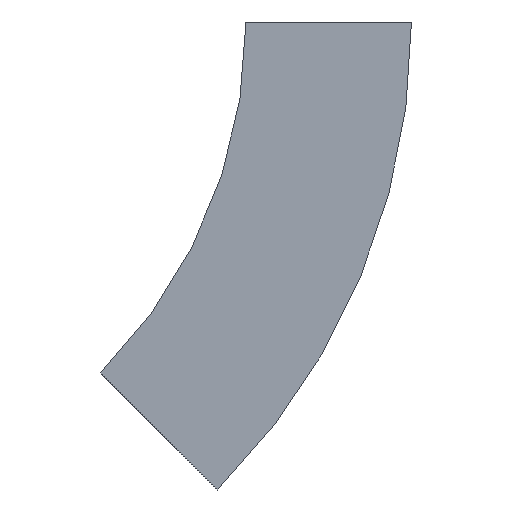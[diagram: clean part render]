
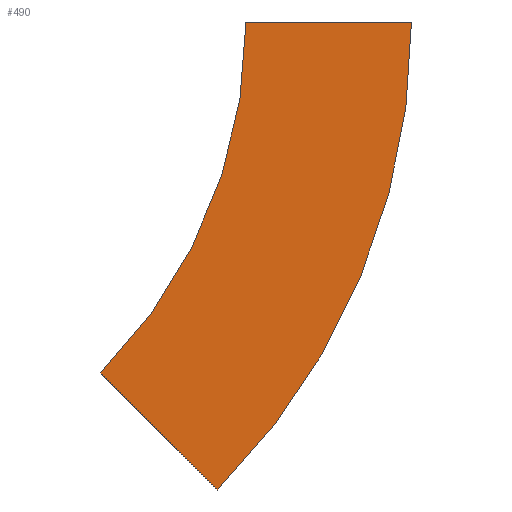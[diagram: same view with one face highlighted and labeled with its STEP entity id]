
A CAD part, left-side view. The second image highlights one B-rep face of the part: STEP entity #490.
In plain terms, the highlighted planar face has unit normal (-1, 0, 0) as drawn and (1, 0, 0) by its records, which use the part's own axes.
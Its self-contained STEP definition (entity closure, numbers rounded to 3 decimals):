
#9 = ORIENTED_EDGE ( 'NONE', *, *, #560, .F. ) ;
#15 = VERTEX_POINT ( 'NONE', #146 ) ;
#17 = CARTESIAN_POINT ( 'NONE',  ( 0., -100., 0. ) ) ;
#19 = AXIS2_PLACEMENT_3D ( 'NONE', #21, #200, #54 ) ;
#20 = CARTESIAN_POINT ( 'NONE',  ( 0., 87.868, -212.132 ) ) ;
#21 = CARTESIAN_POINT ( 'NONE',  ( 0., 300., 0. ) ) ;
#38 = VERTEX_POINT ( 'NONE', #541 ) ;
#42 = EDGE_LOOP ( 'NONE', ( #9, #353, #235, #124 ) ) ;
#54 = DIRECTION ( 'NONE',  ( 0., -1., 0. ) ) ;
#74 = DIRECTION ( 'NONE',  ( 0., 0.707, 0.707 ) ) ;
#83 = VERTEX_POINT ( 'NONE', #86 ) ;
#86 = CARTESIAN_POINT ( 'NONE',  ( 0., 17.157, -282.843 ) ) ;
#95 = PLANE ( 'NONE',  #106 ) ;
#106 = AXIS2_PLACEMENT_3D ( 'NONE', #17, #500, #460 ) ;
#124 = ORIENTED_EDGE ( 'NONE', *, *, #395, .T. ) ;
#146 = CARTESIAN_POINT ( 'NONE',  ( 0., -100., 0. ) ) ;
#186 = CARTESIAN_POINT ( 'NONE',  ( 0., -100., 0. ) ) ;
#200 = DIRECTION ( 'NONE',  ( 1., 0., 0. ) ) ;
#214 = DIRECTION ( 'NONE',  ( 1., 0., 0. ) ) ;
#219 = AXIS2_PLACEMENT_3D ( 'NONE', #316, #214, #270 ) ;
#229 = LINE ( 'NONE', #186, #366 ) ;
#235 = ORIENTED_EDGE ( 'NONE', *, *, #449, .T. ) ;
#270 = DIRECTION ( 'NONE',  ( 0., -1., 0. ) ) ;
#313 = CARTESIAN_POINT ( 'NONE',  ( 0., 17.157, -282.843 ) ) ;
#316 = CARTESIAN_POINT ( 'NONE',  ( 0., 300., 0. ) ) ;
#338 = LINE ( 'NONE', #313, #439 ) ;
#353 = ORIENTED_EDGE ( 'NONE', *, *, #462, .F. ) ;
#366 = VECTOR ( 'NONE', #542, 1000. ) ;
#393 = CIRCLE ( 'NONE', #219, 400. ) ;
#395 = EDGE_CURVE ( 'NONE', #83, #514, #338, .T. ) ;
#439 = VECTOR ( 'NONE', #74, 1000. ) ;
#449 = EDGE_CURVE ( 'NONE', #15, #83, #393, .T. ) ;
#460 = DIRECTION ( 'NONE',  ( 0., 0., 1. ) ) ;
#462 = EDGE_CURVE ( 'NONE', #15, #38, #229, .T. ) ;
#490 = ADVANCED_FACE ( 'NONE', ( #493 ), #95, .F. ) ;
#493 = FACE_OUTER_BOUND ( 'NONE', #42, .T. ) ;
#500 = DIRECTION ( 'NONE',  ( -1., 0., 0. ) ) ;
#514 = VERTEX_POINT ( 'NONE', #20 ) ;
#536 = CIRCLE ( 'NONE', #19, 300. ) ;
#541 = CARTESIAN_POINT ( 'NONE',  ( 0., 0., 0. ) ) ;
#542 = DIRECTION ( 'NONE',  ( 0., 1., 0. ) ) ;
#560 = EDGE_CURVE ( 'NONE', #38, #514, #536, .T. ) ;
